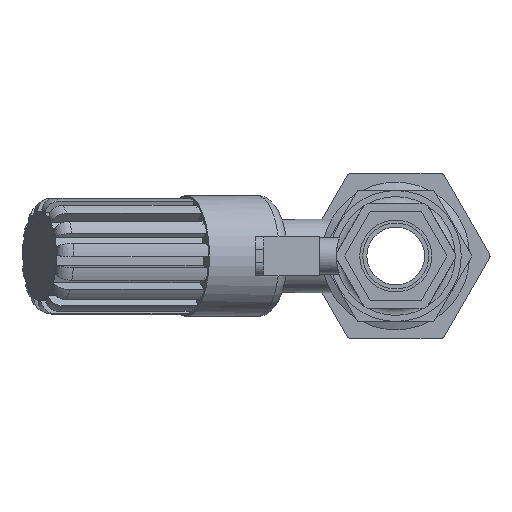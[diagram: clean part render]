
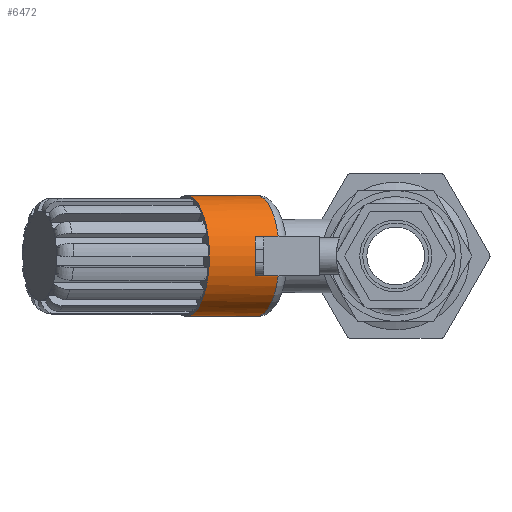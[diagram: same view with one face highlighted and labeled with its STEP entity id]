
A CAD part, left-side view. The second image highlights one B-rep face of the part: STEP entity #6472.
In plain terms, the highlighted cylindrical face has radius 14.605 mm (diameter 29.21 mm), a full revolution.
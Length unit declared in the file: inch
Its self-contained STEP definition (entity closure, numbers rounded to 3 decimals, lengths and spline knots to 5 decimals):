
#191=CYLINDRICAL_SURFACE('',#7079,0.575);
#412=FACE_OUTER_BOUND('',#772,.T.);
#772=EDGE_LOOP('',(#4470,#4471,#4472,#4473,#4474,#4475,#4476,#4477,#4478));
#1216=LINE('',#10055,#1762);
#1217=LINE('',#10059,#1763);
#1218=LINE('',#10063,#1764);
#1762=VECTOR('',#8084,0.575);
#1763=VECTOR('',#8087,0.3937);
#1764=VECTOR('',#8090,0.3937);
#2215=CIRCLE('',#7074,0.575);
#2219=CIRCLE('',#7078,0.575);
#2220=CIRCLE('',#7080,0.575);
#2221=CIRCLE('',#7081,0.575);
#2222=CIRCLE('',#7082,0.575);
#2602=VERTEX_POINT('',#10044);
#2603=VERTEX_POINT('',#10045);
#2606=VERTEX_POINT('',#10054);
#2607=VERTEX_POINT('',#10056);
#2608=VERTEX_POINT('',#10058);
#2609=VERTEX_POINT('',#10060);
#2610=VERTEX_POINT('',#10062);
#3298=EDGE_CURVE('',#2602,#2603,#2215,.T.);
#3302=EDGE_CURVE('',#2603,#2602,#2219,.T.);
#3303=EDGE_CURVE('',#2602,#2606,#1216,.T.);
#3304=EDGE_CURVE('',#2606,#2607,#2220,.T.);
#3305=EDGE_CURVE('',#2608,#2607,#1217,.T.);
#3306=EDGE_CURVE('',#2609,#2608,#2221,.T.);
#3307=EDGE_CURVE('',#2610,#2609,#1218,.T.);
#3308=EDGE_CURVE('',#2610,#2606,#2222,.T.);
#4470=ORIENTED_EDGE('',*,*,#3298,.F.);
#4471=ORIENTED_EDGE('',*,*,#3303,.T.);
#4472=ORIENTED_EDGE('',*,*,#3304,.T.);
#4473=ORIENTED_EDGE('',*,*,#3305,.F.);
#4474=ORIENTED_EDGE('',*,*,#3306,.F.);
#4475=ORIENTED_EDGE('',*,*,#3307,.F.);
#4476=ORIENTED_EDGE('',*,*,#3308,.T.);
#4477=ORIENTED_EDGE('',*,*,#3303,.F.);
#4478=ORIENTED_EDGE('',*,*,#3302,.F.);
#6472=ADVANCED_FACE('',(#412),#191,.T.);
#7074=AXIS2_PLACEMENT_3D('',#10046,#8072,#8073);
#7078=AXIS2_PLACEMENT_3D('',#10052,#8080,#8081);
#7079=AXIS2_PLACEMENT_3D('',#10053,#8082,#8083);
#7080=AXIS2_PLACEMENT_3D('',#10057,#8085,#8086);
#7081=AXIS2_PLACEMENT_3D('',#10061,#8088,#8089);
#7082=AXIS2_PLACEMENT_3D('',#10064,#8091,#8092);
#8072=DIRECTION('center_axis',(-0.375,0.927,0.));
#8073=DIRECTION('ref_axis',(-0.927,-0.375,0.));
#8080=DIRECTION('center_axis',(-0.375,0.927,0.));
#8081=DIRECTION('ref_axis',(-0.927,-0.375,0.));
#8082=DIRECTION('center_axis',(-0.375,0.927,0.));
#8083=DIRECTION('ref_axis',(-0.927,-0.375,0.));
#8084=DIRECTION('',(0.375,-0.927,0.));
#8085=DIRECTION('center_axis',(-0.375,0.927,0.));
#8086=DIRECTION('ref_axis',(-0.927,-0.375,0.));
#8087=DIRECTION('',(0.375,-0.927,0.));
#8088=DIRECTION('center_axis',(0.375,-0.927,0.));
#8089=DIRECTION('ref_axis',(-0.927,-0.375,0.));
#8090=DIRECTION('',(-0.375,0.927,0.));
#8091=DIRECTION('center_axis',(-0.375,0.927,0.));
#8092=DIRECTION('ref_axis',(-0.927,-0.375,0.));
#10044=CARTESIAN_POINT('',(1.06523,-1.10114,0.));
#10045=CARTESIAN_POINT('',(0.5321,-1.31654,0.575));
#10046=CARTESIAN_POINT('Origin',(0.5321,-1.31654,0.));
#10052=CARTESIAN_POINT('Origin',(0.5321,-1.31654,0.));
#10053=CARTESIAN_POINT('Origin',(0.80052,-1.98091,0.));
#10054=CARTESIAN_POINT('',(1.33366,-1.76552,0.));
#10055=CARTESIAN_POINT('',(1.33366,-1.76552,0.));
#10056=CARTESIAN_POINT('',(0.29268,-2.18609,-0.175));
#10057=CARTESIAN_POINT('Origin',(0.80052,-1.98091,0.));
#10058=CARTESIAN_POINT('',(0.26459,-2.11656,-0.175));
#10059=CARTESIAN_POINT('',(0.29268,-2.18609,-0.175));
#10060=CARTESIAN_POINT('',(0.26459,-2.11656,0.175));
#10061=CARTESIAN_POINT('Origin',(0.77243,-1.91138,0.));
#10062=CARTESIAN_POINT('',(0.29268,-2.18609,0.175));
#10063=CARTESIAN_POINT('',(0.29268,-2.18609,0.175));
#10064=CARTESIAN_POINT('Origin',(0.80052,-1.98091,0.));
